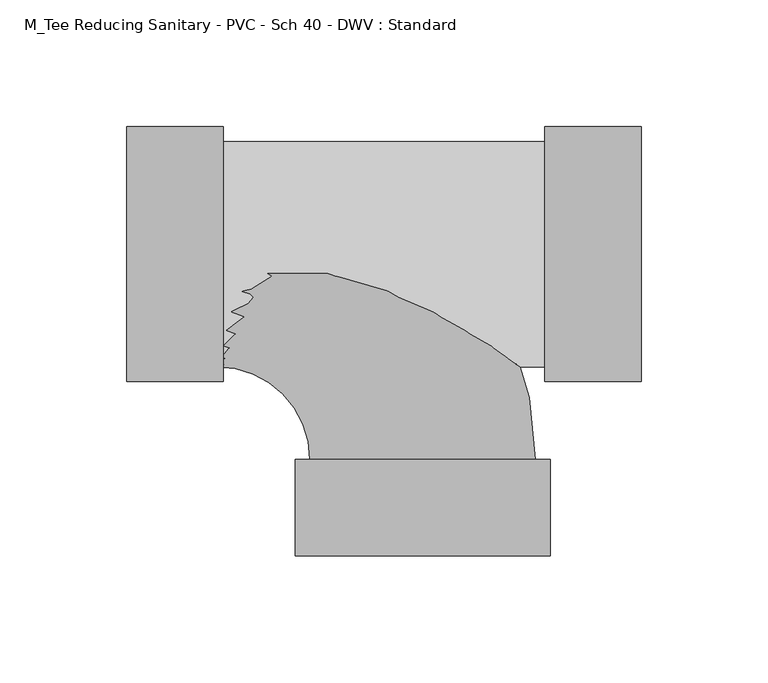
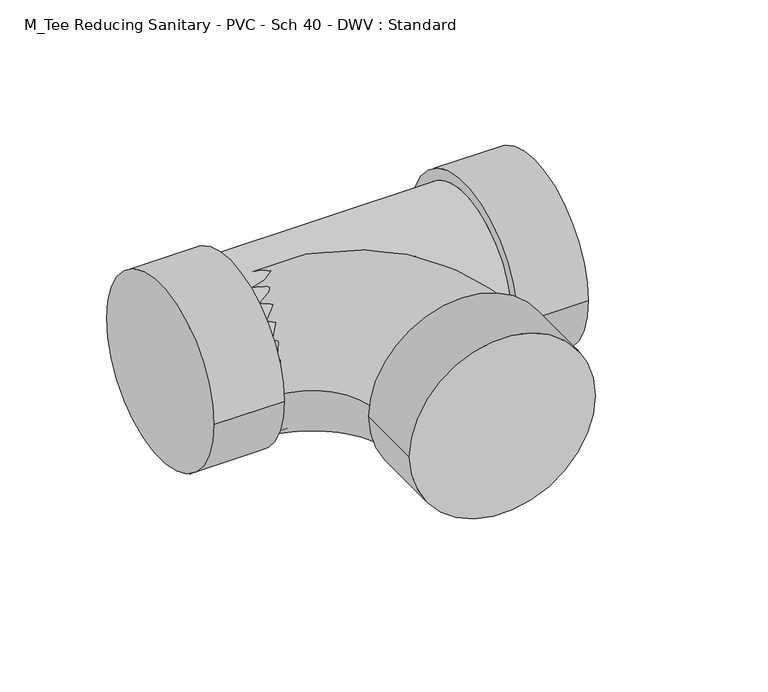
"""IFC4 building model written with IfcOpenShell, lengths in millimetres: pipe fitting geometry, M_Tee Reducing Sanitary - PVC - Sch 40 - DWV : Standard."""

from ifc_helpers import new_model, si_unit, point, frame, origin, place, context, project, spatial, circle_curve, ellipse_curve, trimmed, source, transform, mapped, element, save
from ifc_brep_helpers import plane_surface, cylinder_surface, revolved_surface, advanced_brep


def m_tee_reducing_sanitary_pvc_sch_40_dwv_standard_7ce0c8e4(model_context):
    return source(origin(), model_context, "Body", "AdvancedBrep", [
        advanced_brep(
        [(48.083325, -50.2666, 0.0), (48.083325, 50.2666, 0.0), (48.083325, -44.45, 0.0), (48.083325, 44.45, 0.0), (86.183325, -50.2666, 0.0), (86.183325, 50.2666, 0.0), (-78.4787062, 44.45, 0.0), (-78.4787062, -44.45, 0.0), (-116.5787062, -50.2666, 0.0), (-116.5787062, 50.2666, 0.0), (-78.4787062, -50.2666, 0.0), (-78.4787062, 50.2666, 0.0)],
        [
            (0, 1, circle_curve(frame((48.083325, 0.0, 0.0), z_axis=(-1.0, 0.0, 0.0), x_axis=(0.0, 1.0, 0.0)), 50.2666)),
            (1, 0, circle_curve(frame((48.083325, 0.0, 0.0), z_axis=(-1.0, 0.0, 0.0), x_axis=(0.0, 1.0, 0.0)), 50.2666)),
            (2, 3, circle_curve(frame((48.083325, 0.0, 0.0), z_axis=(1.0, 0.0, 0.0), x_axis=(0.0, 0.0, -1.0)), 44.45)),
            (3, 2, circle_curve(frame((48.083325, 0.0, 0.0), z_axis=(1.0, 0.0, 0.0), x_axis=(0.0, 0.0, 1.0)), 44.45)),
            (4, 5, circle_curve(frame((86.183325, 0.0, 0.0), z_axis=(1.0, 0.0, 0.0), x_axis=(0.0, 1.0, 0.0)), 50.2666)),
            (5, 4, circle_curve(frame((86.183325, 0.0, 0.0), z_axis=(1.0, 0.0, 0.0), x_axis=(0.0, 1.0, 0.0)), 50.2666)),
            (0, 4),
            (5, 1),
            (6, 3),
            (2, 7),
            (7, 6, circle_curve(frame((-78.4787062, 0.0, 0.0), z_axis=(1.0, 0.0, 0.0), x_axis=(0.0, 0.0, -1.0)), 44.45)),
            (6, 7, circle_curve(frame((-78.4787062, 0.0, 0.0), z_axis=(1.0, 0.0, 0.0), x_axis=(0.0, 0.0, 1.0)), 44.45)),
            (8, 9, circle_curve(frame((-116.5787062, 0.0, 0.0), z_axis=(-1.0, 0.0, 0.0), x_axis=(0.0, 1.0, 0.0)), 50.2666)),
            (9, 8, circle_curve(frame((-116.5787062, 0.0, 0.0), z_axis=(-1.0, 0.0, 0.0), x_axis=(0.0, 1.0, 0.0)), 50.2666)),
            (10, 11, circle_curve(frame((-78.4787062, 0.0, 0.0), z_axis=(1.0, 0.0, 0.0), x_axis=(0.0, 1.0, 0.0)), 50.2666)),
            (11, 10, circle_curve(frame((-78.4787062, 0.0, 0.0), z_axis=(1.0, 0.0, 0.0), x_axis=(0.0, 1.0, 0.0)), 50.2666)),
            (8, 10),
            (11, 9),
        ],
        [
            plane_surface(frame((48.083325, 0.0, 0.0), z_axis=(-1.0, 0.0, 0.0), x_axis=(0.0, 0.0, 1.0))),
            plane_surface(frame((86.183325, 0.0, 0.0), z_axis=(1.0, 0.0, 0.0), x_axis=(0.0, 0.0, 1.0))),
            cylinder_surface(frame((48.083325, 0.0, 0.0), z_axis=(-1.0, 0.0, 0.0), x_axis=(0.0, 1.0, 0.0)), 50.2666),
            cylinder_surface(frame((-78.4787062, 0.0, 0.0), z_axis=(1.0, 0.0, 0.0), x_axis=(0.0, 0.0, -1.0)), 44.45),
            cylinder_surface(frame((-78.4787062, 0.0, 0.0), z_axis=(1.0, 0.0, 0.0), x_axis=(0.0, 0.0, 1.0)), 44.45),
            plane_surface(frame((-116.5787062, 0.0, 0.0), z_axis=(-1.0, 0.0, 0.0), x_axis=(0.0, 0.0, 1.0))),
            plane_surface(frame((-78.4787062, 0.0, 0.0), z_axis=(1.0, 0.0, 0.0), x_axis=(0.0, 0.0, 1.0))),
            cylinder_surface(frame((-116.5787062, 0.0, 0.0), z_axis=(-1.0, 0.0, 0.0), x_axis=(0.0, 1.0, 0.0)), 50.2666),
        ],
        [
            (0, [[1, 2], [3, 4]]),
            (1, [[5, 6]]),
            (2, [[-1, 7, -6, 8]]),
            (2, [[-2, -8, -5, -7]]),
            (3, [[9, -3, 10, 11]]),
            (4, [[-9, 12, -10, -4]]),
            (5, [[13, 14]]),
            (6, [[15, 16], [-11, -12]]),
            (7, [[-13, 17, -16, 18]]),
            (7, [[-14, -18, -15, -17]]),
        ],
    ),
        advanced_brep(
        [(-50.2666, -80.9476563, 0.0), (50.2666, -80.9476563, 0.0), (44.45, -80.9476563, 0.0), (-44.45, -80.9476563, 0.0), (-50.2666, -119.0476563, 0.0), (50.2666, -119.0476563, 0.0), (-80.9476562, -44.45, 0.0), (-80.9476562, 44.45, 0.0)],
        [
            (0, 1, circle_curve(frame((0.0, -80.9476563, 0.0), z_axis=(0.0, 1.0, 0.0), x_axis=(1.0, 0.0, 0.0)), 50.2666)),
            (1, 0, circle_curve(frame((0.0, -80.9476563, 0.0), z_axis=(0.0, 1.0, 0.0), x_axis=(1.0, 0.0, 0.0)), 50.2666)),
            (2, 3, circle_curve(frame((0.0, -80.9476563, 0.0), z_axis=(0.0, -1.0, 0.0), x_axis=(1.0, 0.0, 0.0)), 44.45)),
            (3, 2, circle_curve(frame((0.0, -80.9476563, 0.0), z_axis=(0.0, -1.0, 0.0), x_axis=(1.0, 0.0, 0.0)), 44.45)),
            (4, 5, circle_curve(frame((0.0, -119.0476563, 0.0), z_axis=(0.0, -1.0, 0.0), x_axis=(1.0, 0.0, 0.0)), 50.2666)),
            (5, 4, circle_curve(frame((0.0, -119.0476563, 0.0), z_axis=(0.0, -1.0, 0.0), x_axis=(1.0, 0.0, 0.0)), 50.2666)),
            (0, 4),
            (5, 1),
            (6, 7, circle_curve(frame((-80.9476562, 0.0, 0.0), z_axis=(-1.0, 0.0, 0.0), x_axis=(0.0, 1.0, 0.0)), 44.45)),
            (7, 6, circle_curve(frame((-80.9476562, 0.0, 0.0), z_axis=(-1.0, 0.0, 0.0), x_axis=(0.0, 1.0, 0.0)), 44.45)),
            (6, 3, circle_curve(frame((-80.9476562, -80.9476563, 0.0), z_axis=(0.0, 0.0, -1.0), x_axis=(0.0, 1.0, 0.0)), 36.4976563)),
            (2, 7, circle_curve(frame((-80.9476562, -80.9476563, 0.0), z_axis=(0.0, 0.0, 1.0), x_axis=(0.0, 1.0, 0.0)), 125.3976563)),
        ],
        [
            plane_surface(frame((0.0, -80.9476563, 0.0), z_axis=(0.0, 1.0, 0.0), x_axis=(0.0, 0.0, 1.0))),
            plane_surface(frame((0.0, -119.0476563, 0.0), z_axis=(0.0, -1.0, 0.0), x_axis=(0.0, 0.0, 1.0))),
            cylinder_surface(frame((0.0, -80.9476563, 0.0), z_axis=(0.0, 1.0, 0.0), x_axis=(1.0, 0.0, 0.0)), 50.2666),
            plane_surface(frame((-80.9476562, 0.0, 0.0), z_axis=(-1.0, 0.0, 0.0), x_axis=(0.0, 0.0, 1.0))),
            revolved_surface(trimmed(ellipse_curve(frame((-80.9476562, 0.0, 0.0), z_axis=(-1.0, 0.0, 0.0), x_axis=(0.0, 1.0, 0.0)), 44.45, 44.45), [point((-80.9476562, -44.45, 0.0))], [point((-80.9476562, 44.45, 0.0))], True, "CARTESIAN"), (-80.9476562, -80.9476563, 0.0), (0.0, 0.0, -1.0)),
            revolved_surface(trimmed(ellipse_curve(frame((-80.9476562, 0.0, 0.0), z_axis=(-1.0, 0.0, 0.0), x_axis=(0.0, 1.0, 0.0)), 44.45, 44.45), [point((-80.9476562, 44.45, 0.0))], [point((-80.9476562, -44.45, 0.0))], True, "CARTESIAN"), (-80.9476562, -80.9476563, 0.0), (0.0, 0.0, -1.0)),
        ],
        [
            (0, [[1, 2], [3, 4]]),
            (1, [[5, 6]]),
            (2, [[-1, 7, -6, 8]]),
            (2, [[-2, -8, -5, -7]]),
            (3, [[9, 10]]),
            (4, [[-9, 11, -3, 12]]),
            (5, [[-10, -12, -4, -11]]),
        ],
    ),
    ])


if __name__ == "__main__":
    model = new_model("IFC4")
    model_context = context("Model", 3, world=origin())
    ifc_project = project(units=[si_unit("LENGTHUNIT", "METRE", prefix="MILLI")], contexts=[model_context])
    site = spatial("IfcSite", under=ifc_project)
    building = spatial("IfcBuilding", under=site)
    placement = place(None, origin())
    m_tee_reducing_sanitary_pvc_sch_40_dwv_standard_shape = m_tee_reducing_sanitary_pvc_sch_40_dwv_standard_7ce0c8e4(model_context)
    element("IfcPipeFitting", 1, ObjectType="M_Tee Reducing Sanitary - PVC - Sch 40 - DWV : Standard", at=placement, inside=building, context=model_context, shape_type="MappedRepresentation", body=[
        mapped(m_tee_reducing_sanitary_pvc_sch_40_dwv_standard_shape, transform((0.0, 0.0, 0.0), x_axis=(1.0, 0.0, 0.0), y_axis=(0.0, 1.0, 0.0), z_axis=(0.0, 0.0, 1.0))),
    ])
    save(model, "model.ifc")
